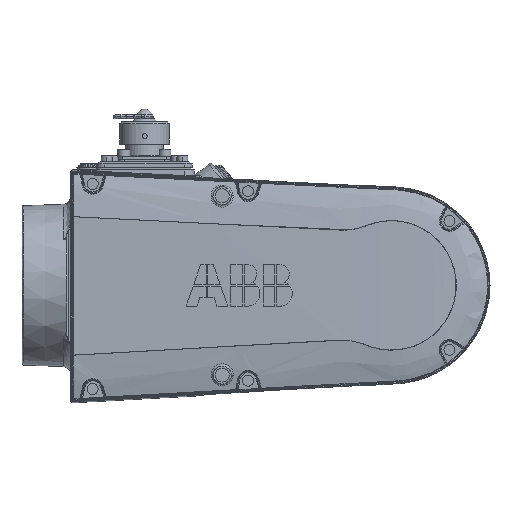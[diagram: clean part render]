
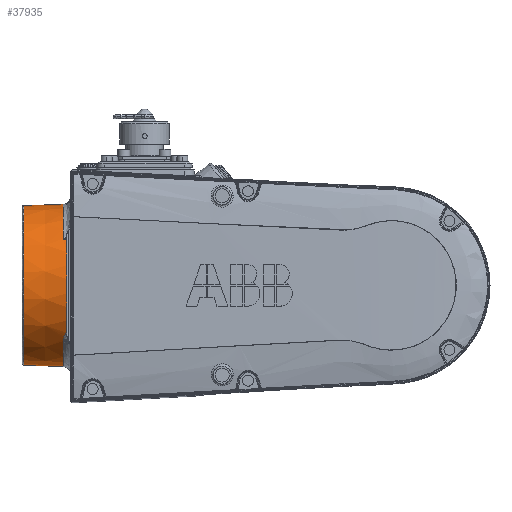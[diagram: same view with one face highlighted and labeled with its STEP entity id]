
A CAD part, front view. The second image highlights one B-rep face of the part: STEP entity #37935.
In plain terms, the highlighted conical face has half-angle 2 degrees and reference radius 40.786 mm.
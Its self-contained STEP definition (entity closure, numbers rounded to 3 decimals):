
#237 = DIRECTION ( 'NONE',  ( 0.999, 0., 0.035 ) ) ;
#285 = VERTEX_POINT ( 'NONE', #41153 ) ;
#922 = CARTESIAN_POINT ( 'NONE',  ( 187.065, -33.712, 814.175 ) ) ;
#2092 = CARTESIAN_POINT ( 'NONE',  ( 187.079, -32.375, 766.19 ) ) ;
#3452 = VECTOR ( 'NONE', #12736, 1000. ) ;
#3982 = ORIENTED_EDGE ( 'NONE', *, *, #10648, .T. ) ;
#6608 = CARTESIAN_POINT ( 'NONE',  ( 166.465, -0.121, 791.1 ) ) ;
#6656 = CARTESIAN_POINT ( 'NONE',  ( 166.465, -0.121, 751.066 ) ) ;
#8286 = CARTESIAN_POINT ( 'NONE',  ( 186.139, -0.121, 750.379 ) ) ;
#8830 = VECTOR ( 'NONE', #237, 1000. ) ;
#9798 = B_SPLINE_CURVE_WITH_KNOTS ( 'NONE', 3,
 ( #40156, #35867, #31575, #19563, #41297, #36150, #22995, #45024, #49033, #32417, #19278, #45304, #9846, #14428, #14712, #23829, #2092, #36716, #27274, #36998, #54442, #15282, #32688, #46693 ),
 .UNSPECIFIED., .F., .F.,
 ( 4, 2, 2, 1, 1, 1, 2, 2, 2, 1, 1, 1, 2, 2, 4 ),
 ( 0., 0.125, 0.25, 0.375, 0.437, 0.469, 0.484, 0.5, 0.625, 0.687, 0.719, 0.734, 0.742, 0.75, 1. ),
 .UNSPECIFIED. ) ;
#9846 = CARTESIAN_POINT ( 'NONE',  ( 186.68, -31.783, 765.462 ) ) ;
#9900 = DIRECTION ( 'NONE',  ( -1., 0., 0. ) ) ;
#10648 = EDGE_CURVE ( 'NONE', #285, #35206, #25553, .T. ) ;
#11252 = CONICAL_SURFACE ( 'NONE', #46863, 40.786, 0.035 ) ;
#11905 = VERTEX_POINT ( 'NONE', #6656 ) ;
#12463 = ORIENTED_EDGE ( 'NONE', *, *, #42558, .T. ) ;
#12736 = DIRECTION ( 'NONE',  ( 0.999, 0., -0.035 ) ) ;
#12813 = CARTESIAN_POINT ( 'NONE',  ( 188., -33.264, 767.33 ) ) ;
#13343 = ORIENTED_EDGE ( 'NONE', *, *, #16395, .T. ) ;
#13551 = CARTESIAN_POINT ( 'NONE',  ( 186.139, -33.439, 814.512 ) ) ;
#13641 = AXIS2_PLACEMENT_3D ( 'NONE', #47186, #41309, #42883 ) ;
#13677 = CIRCLE ( 'NONE', #13641, 40.721 ) ;
#13838 = CARTESIAN_POINT ( 'NONE',  ( 188., -33.796, 814.111 ) ) ;
#14003 = CARTESIAN_POINT ( 'NONE',  ( 188., -0.121, 831.886 ) ) ;
#14428 = CARTESIAN_POINT ( 'NONE',  ( 186.767, -31.932, 765.643 ) ) ;
#14668 = ORIENTED_EDGE ( 'NONE', *, *, #41663, .T. ) ;
#14712 = CARTESIAN_POINT ( 'NONE',  ( 186.911, -32.149, 765.908 ) ) ;
#15282 = CARTESIAN_POINT ( 'NONE',  ( 187.42, -32.783, 766.703 ) ) ;
#15678 = VERTEX_POINT ( 'NONE', #51309 ) ;
#15866 = CARTESIAN_POINT ( 'NONE',  ( 188., -0.121, 791.1 ) ) ;
#16395 = EDGE_CURVE ( 'NONE', #51260, #285, #20319, .T. ) ;
#16473 = CARTESIAN_POINT ( 'NONE',  ( 188., -0.121, 750.314 ) ) ;
#17533 = EDGE_CURVE ( 'NONE', #52816, #35206, #53184, .T. ) ;
#17648 = CARTESIAN_POINT ( 'NONE',  ( 186.139, -0.121, 791.1 ) ) ;
#18988 = CARTESIAN_POINT ( 'NONE',  ( 186.699, -33.646, 814.249 ) ) ;
#19278 = CARTESIAN_POINT ( 'NONE',  ( 186.583, -31.591, 765.233 ) ) ;
#19563 = CARTESIAN_POINT ( 'NONE',  ( 186.189, -30.375, 763.84 ) ) ;
#20319 = B_SPLINE_CURVE_WITH_KNOTS ( 'NONE', 3,
 ( #13838, #44715, #22414, #36408, #39859, #22126, #40137, #922, #39577, #18988, #26689, #13551 ),
 .UNSPECIFIED., .F., .F.,
 ( 4, 2, 1, 1, 2, 2, 4 ),
 ( 0., 0.25, 0.375, 0.438, 0.469, 0.5, 1. ),
 .UNSPECIFIED. ) ;
#20726 = ORIENTED_EDGE ( 'NONE', *, *, #29281, .T. ) ;
#21465 = AXIS2_PLACEMENT_3D ( 'NONE', #52502, #36179, #53640 ) ;
#21567 = VERTEX_POINT ( 'NONE', #12813 ) ;
#22126 = CARTESIAN_POINT ( 'NONE',  ( 187.162, -33.729, 814.157 ) ) ;
#22414 = CARTESIAN_POINT ( 'NONE',  ( 187.662, -33.785, 814.105 ) ) ;
#22995 = CARTESIAN_POINT ( 'NONE',  ( 186.369, -31.097, 764.653 ) ) ;
#23149 = EDGE_CURVE ( 'NONE', #11905, #43131, #29342, .T. ) ;
#23303 = DIRECTION ( 'NONE',  ( 0., 0., 1. ) ) ;
#23829 = CARTESIAN_POINT ( 'NONE',  ( 186.986, -32.255, 766.039 ) ) ;
#23991 = EDGE_LOOP ( 'NONE', ( #14668, #50679, #52421, #20726, #12463, #13343, #3982, #51778 ) ) ;
#24626 = DIRECTION ( 'NONE',  ( 1., 0., 0. ) ) ;
#25553 = CIRCLE ( 'NONE', #54812, 40.721 ) ;
#26689 = CARTESIAN_POINT ( 'NONE',  ( 186.403, -33.557, 814.36 ) ) ;
#27259 = CARTESIAN_POINT ( 'NONE',  ( 186.139, -0.121, 831.821 ) ) ;
#27274 = CARTESIAN_POINT ( 'NONE',  ( 187.148, -32.46, 766.296 ) ) ;
#28725 = FACE_OUTER_BOUND ( 'NONE', #23991, .T. ) ;
#29281 = EDGE_CURVE ( 'NONE', #15678, #21567, #9798, .T. ) ;
#29342 = LINE ( 'NONE', #16473, #3452 ) ;
#31575 = CARTESIAN_POINT ( 'NONE',  ( 186.149, -30.047, 763.482 ) ) ;
#32417 = CARTESIAN_POINT ( 'NONE',  ( 186.564, -31.554, 765.189 ) ) ;
#32632 = EDGE_CURVE ( 'NONE', #43131, #15678, #13677, .T. ) ;
#32688 = CARTESIAN_POINT ( 'NONE',  ( 187.694, -33.039, 767.034 ) ) ;
#33313 = CIRCLE ( 'NONE', #49773, 40.034 ) ;
#35206 = VERTEX_POINT ( 'NONE', #27259 ) ;
#35867 = CARTESIAN_POINT ( 'NONE',  ( 186.139, -29.882, 763.305 ) ) ;
#36150 = CARTESIAN_POINT ( 'NONE',  ( 186.297, -30.86, 764.383 ) ) ;
#36179 = DIRECTION ( 'NONE',  ( -1., 0., 0. ) ) ;
#36408 = CARTESIAN_POINT ( 'NONE',  ( 187.419, -33.763, 814.123 ) ) ;
#36716 = CARTESIAN_POINT ( 'NONE',  ( 187.127, -32.435, 766.264 ) ) ;
#36827 = CARTESIAN_POINT ( 'NONE',  ( 166.465, -0.121, 831.134 ) ) ;
#36998 = CARTESIAN_POINT ( 'NONE',  ( 187.162, -32.477, 766.317 ) ) ;
#37935 = ADVANCED_FACE ( 'NONE', ( #28725 ), #11252, .T. ) ;
#39577 = CARTESIAN_POINT ( 'NONE',  ( 187.047, -33.709, 814.178 ) ) ;
#39859 = CARTESIAN_POINT ( 'NONE',  ( 187.299, -33.749, 814.136 ) ) ;
#40137 = CARTESIAN_POINT ( 'NONE',  ( 187.103, -33.719, 814.167 ) ) ;
#40156 = CARTESIAN_POINT ( 'NONE',  ( 186.139, -29.716, 763.13 ) ) ;
#41153 = CARTESIAN_POINT ( 'NONE',  ( 186.139, -33.439, 814.512 ) ) ;
#41297 = CARTESIAN_POINT ( 'NONE',  ( 186.219, -30.539, 764.022 ) ) ;
#41309 = DIRECTION ( 'NONE',  ( -1., 0., 0. ) ) ;
#41663 = EDGE_CURVE ( 'NONE', #52816, #11905, #33313, .T. ) ;
#42558 = EDGE_CURVE ( 'NONE', #21567, #51260, #56176, .T. ) ;
#42883 = DIRECTION ( 'NONE',  ( 0., 0., -1. ) ) ;
#43131 = VERTEX_POINT ( 'NONE', #8286 ) ;
#44715 = CARTESIAN_POINT ( 'NONE',  ( 187.829, -33.794, 814.103 ) ) ;
#45024 = CARTESIAN_POINT ( 'NONE',  ( 186.477, -31.365, 764.966 ) ) ;
#45304 = CARTESIAN_POINT ( 'NONE',  ( 186.592, -31.609, 765.255 ) ) ;
#45794 = CARTESIAN_POINT ( 'NONE',  ( 188., -33.796, 814.111 ) ) ;
#46693 = CARTESIAN_POINT ( 'NONE',  ( 188., -33.264, 767.33 ) ) ;
#46863 = AXIS2_PLACEMENT_3D ( 'NONE', #15866, #50157, #23303 ) ;
#47186 = CARTESIAN_POINT ( 'NONE',  ( 186.139, -0.121, 791.1 ) ) ;
#49033 = CARTESIAN_POINT ( 'NONE',  ( 186.537, -31.497, 765.122 ) ) ;
#49773 = AXIS2_PLACEMENT_3D ( 'NONE', #6608, #24626, #50382 ) ;
#50157 = DIRECTION ( 'NONE',  ( 1., 0., 0. ) ) ;
#50382 = DIRECTION ( 'NONE',  ( 0., 0., 1. ) ) ;
#50679 = ORIENTED_EDGE ( 'NONE', *, *, #23149, .T. ) ;
#51260 = VERTEX_POINT ( 'NONE', #45794 ) ;
#51309 = CARTESIAN_POINT ( 'NONE',  ( 186.139, -29.716, 763.13 ) ) ;
#51778 = ORIENTED_EDGE ( 'NONE', *, *, #17533, .F. ) ;
#52421 = ORIENTED_EDGE ( 'NONE', *, *, #32632, .T. ) ;
#52502 = CARTESIAN_POINT ( 'NONE',  ( 188., -0.121, 791.1 ) ) ;
#52800 = DIRECTION ( 'NONE',  ( 0., 0., -1. ) ) ;
#52816 = VERTEX_POINT ( 'NONE', #36827 ) ;
#53184 = LINE ( 'NONE', #14003, #8830 ) ;
#53640 = DIRECTION ( 'NONE',  ( 0., 0., 1. ) ) ;
#54442 = CARTESIAN_POINT ( 'NONE',  ( 187.168, -32.485, 766.327 ) ) ;
#54812 = AXIS2_PLACEMENT_3D ( 'NONE', #17648, #9900, #52800 ) ;
#56176 = CIRCLE ( 'NONE', #21465, 40.786 ) ;
